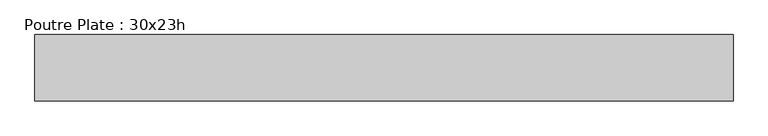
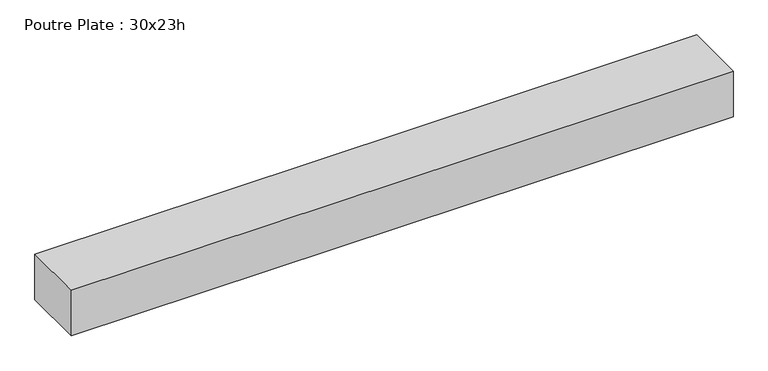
"""IFC4 building model written with IfcOpenShell, lengths in millimetres: beam geometry, Poutre Plate : 30x23h."""

from ifc_helpers import new_model, si_unit, frame, origin, place, context, project, spatial, polyline, outline, extrude, source, transform, mapped, element, save


def poutre_plate_30x23h_b93e17b9(model_context):
    return source(origin(), model_context, "Body", "SweptSolid", [
        extrude(outline(polyline([(1574.7, 150.0), (1574.7, -150.0), (-1574.7, -150.0), (-1574.7, 150.0), (1574.7, 150.0)])), frame((0.0, 0.0, -115.0), z_axis=(0.0, 0.0, 1.0), x_axis=(1.0, 0.0, 0.0)), (0.0, 0.0, 1.0), 230.0),
    ])


if __name__ == "__main__":
    model = new_model("IFC4")
    model_context = context("Model", 3, world=origin())
    ifc_project = project(units=[si_unit("LENGTHUNIT", "METRE", prefix="MILLI")], contexts=[model_context])
    site = spatial("IfcSite", under=ifc_project)
    building = spatial("IfcBuilding", under=site)
    placement = place(None, origin())
    poutre_plate_30x23h_shape = poutre_plate_30x23h_b93e17b9(model_context)
    element("IfcBeam", 1, ObjectType="Poutre Plate : 30x23h", at=placement, inside=building, context=model_context, shape_type="MappedRepresentation", body=[
        mapped(poutre_plate_30x23h_shape, transform((0.0, 0.0, 0.0), x_axis=(1.0, 0.0, 0.0), y_axis=(0.0, 1.0, 0.0), z_axis=(0.0, 0.0, 1.0))),
    ])
    save(model, "model.ifc")
